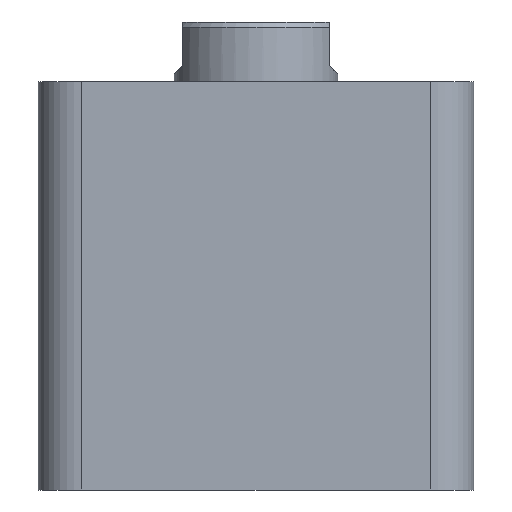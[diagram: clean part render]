
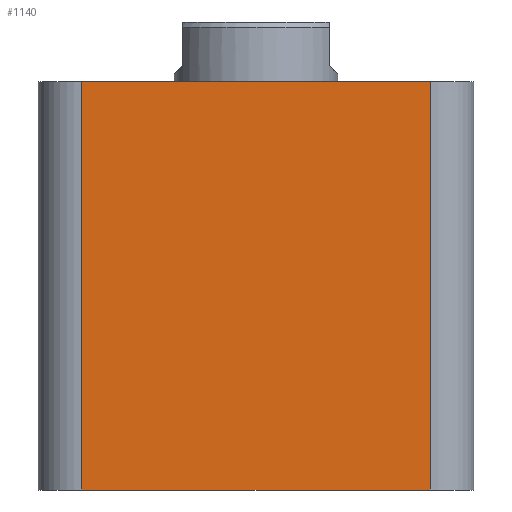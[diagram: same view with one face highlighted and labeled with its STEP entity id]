
A CAD part, front view. The second image highlights one B-rep face of the part: STEP entity #1140.
In plain terms, the highlighted planar face has unit normal (0, -1, 0).
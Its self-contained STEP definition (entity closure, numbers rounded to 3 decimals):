
#315 = CARTESIAN_POINT ( 'NONE',  ( -32., -40., 75. ) ) ;
#345 = CARTESIAN_POINT ( 'NONE',  ( 32., -40., 0. ) ) ;
#348 = CARTESIAN_POINT ( 'NONE',  ( -32., -40., 0. ) ) ;
#352 = CARTESIAN_POINT ( 'NONE',  ( 32., -40., 75. ) ) ;
#540 = FACE_OUTER_BOUND ( 'NONE', #825, .T. ) ;
#675 = VECTOR ( 'NONE', #1848, 1000. ) ;
#677 = VECTOR ( 'NONE', #1981, 1000. ) ;
#678 = LINE ( 'NONE', #1972, #675 ) ;
#679 = VECTOR ( 'NONE', #1813, 1000. ) ;
#681 = VECTOR ( 'NONE', #1802, 1000. ) ;
#682 = LINE ( 'NONE', #1955, #679 ) ;
#684 = LINE ( 'NONE', #1887, #681 ) ;
#690 = LINE ( 'NONE', #1830, #677 ) ;
#825 = EDGE_LOOP ( 'NONE', ( #1493, #1494, #1495, #1496 ) ) ;
#984 = EDGE_CURVE ( 'NONE', #1350, #1326, #684, .T. ) ;
#985 = EDGE_CURVE ( 'NONE', #1350, #1321, #682, .T. ) ;
#986 = EDGE_CURVE ( 'NONE', #1321, #1323, #690, .T. ) ;
#987 = EDGE_CURVE ( 'NONE', #1323, #1326, #678, .T. ) ;
#1140 = ADVANCED_FACE ( 'NONE', ( #540 ), #2262, .F. ) ;
#1274 = AXIS2_PLACEMENT_3D ( 'NONE', #2270, #2260, #2259 ) ;
#1321 = VERTEX_POINT ( 'NONE', #348 ) ;
#1323 = VERTEX_POINT ( 'NONE', #345 ) ;
#1326 = VERTEX_POINT ( 'NONE', #352 ) ;
#1350 = VERTEX_POINT ( 'NONE', #315 ) ;
#1493 = ORIENTED_EDGE ( 'NONE', *, *, #984, .F. ) ;
#1494 = ORIENTED_EDGE ( 'NONE', *, *, #985, .T. ) ;
#1495 = ORIENTED_EDGE ( 'NONE', *, *, #986, .T. ) ;
#1496 = ORIENTED_EDGE ( 'NONE', *, *, #987, .T. ) ;
#1802 = DIRECTION ( 'NONE',  ( 1., 0., 0. ) ) ;
#1813 = DIRECTION ( 'NONE',  ( 0., 0., -1. ) ) ;
#1830 = CARTESIAN_POINT ( 'NONE',  ( -40., -40., 0. ) ) ;
#1848 = DIRECTION ( 'NONE',  ( 0., 0., 1. ) ) ;
#1887 = CARTESIAN_POINT ( 'NONE',  ( -40., -40., 75. ) ) ;
#1955 = CARTESIAN_POINT ( 'NONE',  ( -32., -40., 75. ) ) ;
#1972 = CARTESIAN_POINT ( 'NONE',  ( 32., -40., 75. ) ) ;
#1981 = DIRECTION ( 'NONE',  ( 1., 0., 0. ) ) ;
#2259 = DIRECTION ( 'NONE',  ( 0., 0., 1. ) ) ;
#2260 = DIRECTION ( 'NONE',  ( 0., 1., 0. ) ) ;
#2262 = PLANE ( 'NONE',  #1274 ) ;
#2270 = CARTESIAN_POINT ( 'NONE',  ( -40., -40., 75. ) ) ;
